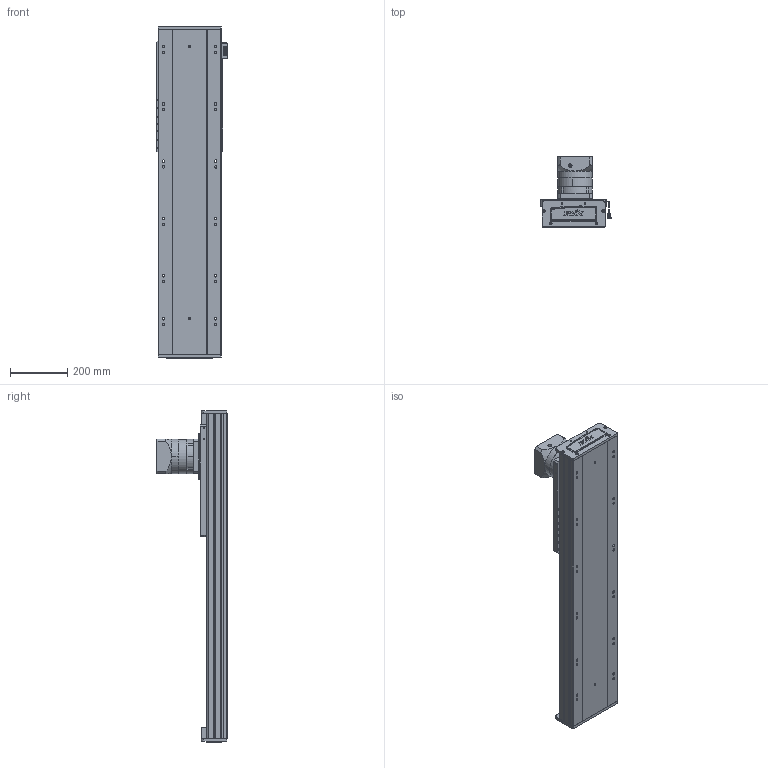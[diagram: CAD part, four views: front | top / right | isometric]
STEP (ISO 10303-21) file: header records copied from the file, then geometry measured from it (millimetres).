
FILE_DESCRIPTION (( 'STEP AP203' ), '1' );
FILE_NAME ('RY220-C-300-UK.SLDASM_0650.step', '2022-08-01T05:58:45', ( '' ), ( '' ), 'SwSTEP 2.0', 'SolidWorks 2016', '' );
FILE_SCHEMA (( 'CONFIG_CONTROL_DESIGN' ));
Length unit declared in the file: millimetre
Products named in the file (10): RY220喘沭賑輸; 覜茼ん674; RY220-C-300-UK.SLDASM_0650; RY220喘沭綴裔啣; RY140直线电机感应器674光电安装座; RY220菁釱MK-300_0650; RY220喘沭俋离覜茼え; PF115L1-S2-22-58-110-145-M8; RY220-齿条模组电机安装板; 滅袉蝶輸ㄗG412隅秶ㄘ
Assembly tree (12 placements, depth 2):
  RY220-C-300-UK.SLDASM_0650
    RY220菁釱MK-300_0650
    RY220喘沭賑輸
    RY220-齿条模组电机安装板
    PF115L1-S2-22-58-110-145-M8
    RY220喘沭綴裔啣  x2
    滅袉蝶輸ㄗG412隅秶ㄘ  x2
    RY140直线电机感应器674光电安装座
    覜茼ん674  x2
    RY220喘沭俋离覜茼え
Bounding box: 247 x 244.5 x 1159 mm (x, y, z)
Volume: 10512267.7 mm3; surface area: 2017686.4 mm2
Topology: 18 solids, 26 shells, 1882 faces, 5033 edges, 3225 vertices
Faces by surface type: cylinder 839, plane 751, bspline 162, cone 130
Entity records: 59349 total; most frequent: CARTESIAN_POINT 16435, DIRECTION 8707, ORIENTED_EDGE 8706, EDGE_CURVE 4353, AXIS2_PLACEMENT_3D 3285, VERTEX_POINT 2851, VECTOR 2137, LINE 2137
